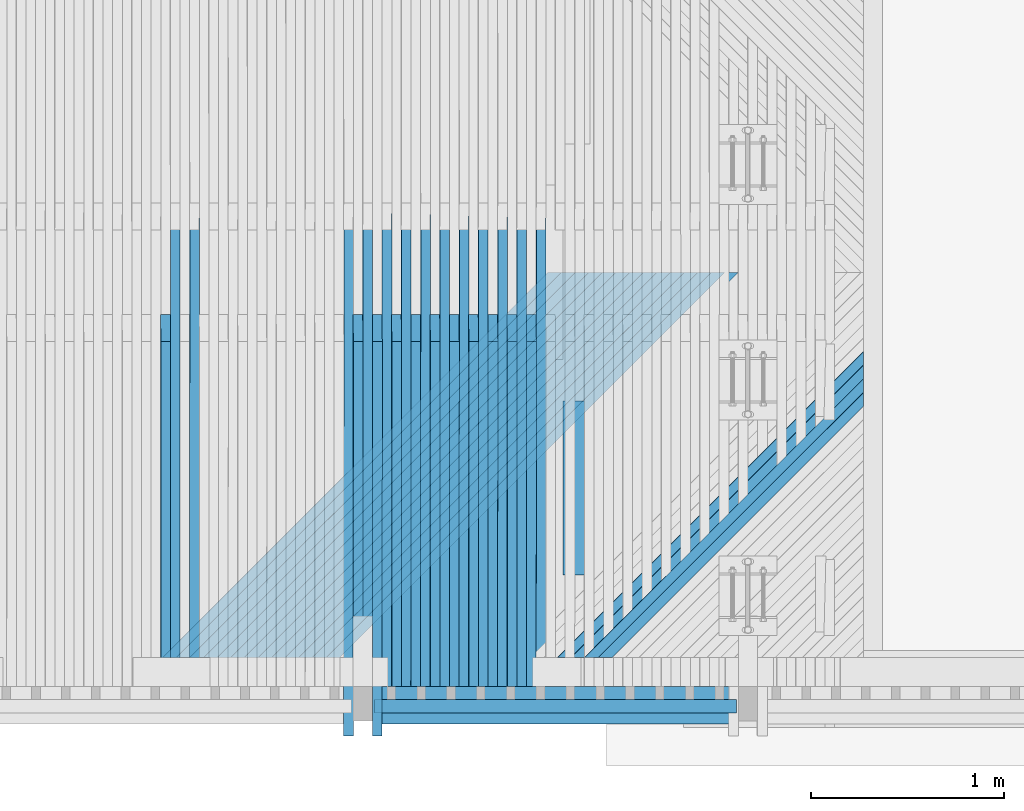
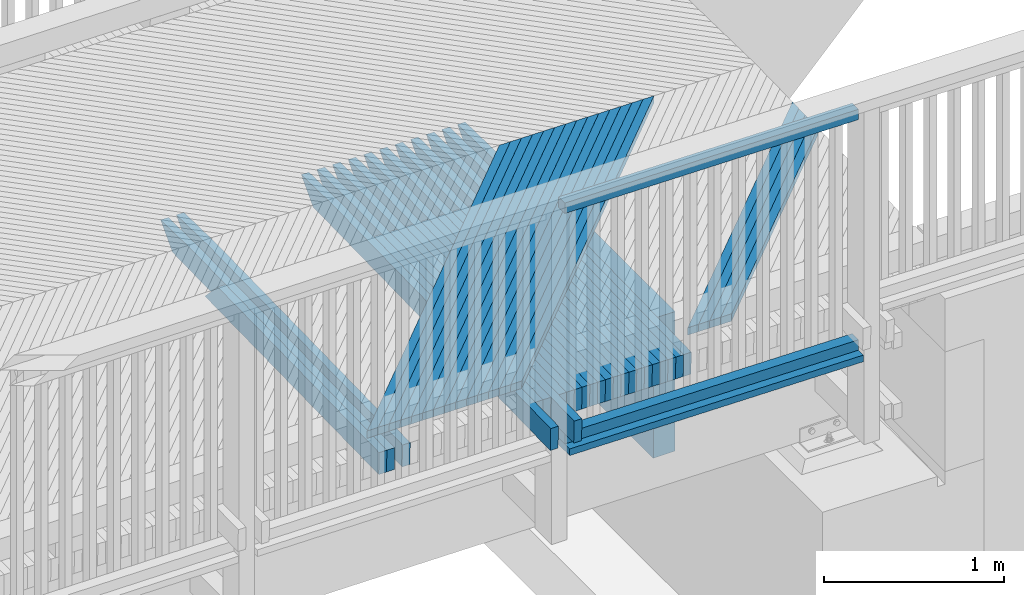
# One storey, part 39 of 52: 46 beams.
"""IFC2X3 building model written with IfcOpenShell, lengths in millimetres."""

from ifc_helpers import new_model, si_unit, frame, origin_with_axes, place, context, subcontext, project, spatial, faceted_brep, material, type_object, element, save


model = new_model("IFC2X3")

# Units and contexts
model_context = context("Model", 3, precision=1e-05, world=origin_with_axes())
body_context = subcontext(model_context, "Body", "Model", "MODEL_VIEW")
ifc_project = project(units=[si_unit("LENGTHUNIT", "METRE", prefix="MILLI"), si_unit("AREAUNIT", "SQUARE_METRE"), si_unit("VOLUMEUNIT", "CUBIC_METRE"), si_unit("MASSUNIT", "GRAM", prefix="KILO"), si_unit("TIMEUNIT", "SECOND"), si_unit("PLANEANGLEUNIT", "RADIAN"), si_unit("SOLIDANGLEUNIT", "STERADIAN"), si_unit("THERMODYNAMICTEMPERATUREUNIT", "DEGREE_CELSIUS"), si_unit("LUMINOUSINTENSITYUNIT", "LUMEN")], contexts=[model_context])

# Site, building, storey
site_placement = place(None, origin_with_axes())
site = spatial("IfcSite", under=ifc_project, at=site_placement, Name="Undefined", CompositionType="ELEMENT")
building_placement = place(site_placement, origin_with_axes())
building = spatial("IfcBuilding", under=site, at=building_placement, Name="Undefined", CompositionType="ELEMENT")
storey_placement = place(building_placement, origin_with_axes())
storey = spatial("IfcBuildingStorey", under=building, at=storey_placement, Name="Undefined", CompositionType="ELEMENT", Elevation=0.0)

# Beams
ifc_material = material(Name="TIMBER/Timber_Undefined")
beam_type_1 = type_object("IfcBeamType", Name="70*70", PredefinedType="NOTDEFINED")
for number, where, z_axis, x_axis, name in (
    (1, (14059.5719402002, 110.009988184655, 2938.34227096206), (0.0, -1.0, 0.0), (0.999925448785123, 0.0, -0.0122105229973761), "BEAM"),
    (2, (14059.5719402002, 110.009988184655, 4498.34227096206), (0.0, -1.0, 0.0), (0.999925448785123, 0.0, -0.0122105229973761), "BEAM"),
):
    element("IfcBeam", number, at=place(storey_placement, frame(where, z_axis=z_axis, x_axis=x_axis)), inside=storey, type_object=beam_type_1, material=ifc_material, Name=name, ObjectType="70*70", context=body_context, shape_type="Brep", body=[
        faceted_brep([(-3.63797880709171e-12, 35.0000000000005, -35.0), (-3.63797880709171e-12, 35.0000000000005, 35.0), (1880.14165787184, 35.0, 35.0), (1880.14165787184, 35.0, -35.0), (-3.63797880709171e-12, -34.9999999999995, 35.0), (1880.14165787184, -34.9999999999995, 35.0), (-3.63797880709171e-12, -34.9999999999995, -35.0), (1880.14165787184, -34.9999999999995, -35.0)], [[[0, 1, 2, 3]], [[1, 4, 5, 2]], [[4, 6, 7, 5]], [[6, 0, 3, 7]], [[5, 7, 3, 2]], [[6, 4, 1, 0]]]),
    ])
beam_type_2 = type_object("IfcBeamType", Name="945*140", PredefinedType="NOTDEFINED")
beam_1_placement = place(storey_placement, frame((15109.0, 1697.5, 2500.4679002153), z_axis=(0.0, 0.0, 1.0), x_axis=(0.0, -1.0, 0.0)))
element("IfcBeam", 3, at=beam_1_placement, inside=storey, type_object=beam_type_2, material=ifc_material, Name="PALKKI", ObjectType="945*140", context=body_context, shape_type="Brep", body=[
    faceted_brep([(0.0, 70.0, -472.5), (0.0, 70.0, 472.5), (905.0, 70.0, 472.5), (905.0, 70.0, -472.5), (0.0, -70.0, 472.5), (905.0, -70.0, 472.5), (0.0, -70.0, -472.5), (905.0, -70.0, -472.5)], [[[0, 1, 2, 3]], [[1, 4, 5, 2]], [[4, 6, 7, 5]], [[6, 0, 3, 7]], [[5, 7, 3, 2]], [[6, 4, 1, 0]]]),
])
beam_type_3 = type_object("IfcBeamType", Name="50*50", PredefinedType="NOTDEFINED")
beam_2_placement = place(storey_placement, frame((17258.8677408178, 2364.50010032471, 3164.92933385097), z_axis=(0.706832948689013, -0.706981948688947, -0.0237425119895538), x_axis=(-0.707250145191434, -0.706948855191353, -0.00453302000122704)))
element("IfcBeam", 4, at=beam_2_placement, inside=storey, type_object=beam_type_3, material=ifc_material, Name="BEAM", ObjectType="50*50", context=body_context, shape_type="Brep", body=[
    faceted_brep([(2802.92643296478, -25.0, 25.0000000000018), (2852.92877373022, -25.0, -24.9999999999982), (2854.34301907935, 25.0, -24.9999999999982), (2804.3406783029, 25.0000000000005, 25.0000000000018), (906.125537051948, 25.0, -24.9999999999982), (956.096042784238, 25.0, 25.0000000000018), (957.056097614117, -24.9999999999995, 25.0000000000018), (907.085591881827, -24.9999999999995, -24.9999999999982)], [[[0, 1, 2, 3]], [[3, 2, 4, 5]], [[0, 3, 5, 6]], [[1, 0, 6, 7]], [[2, 1, 7, 4]], [[6, 5, 4, 7]]]),
])
beam_3_placement = place(storey_placement, frame((17188.1518059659, 2364.50010032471, 3166.01273338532), z_axis=(0.706835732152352, -0.706981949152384, -0.0236594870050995), x_axis=(-0.707249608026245, -0.706948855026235, -0.00461609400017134)))
element("IfcBeam", 5, at=beam_3_placement, inside=storey, type_object=beam_type_3, material=ifc_material, Name="BEAM", ObjectType="50*50", context=body_context, shape_type="Brep", body=[
    faceted_brep([(2802.92643296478, -25.0, 25.0000000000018), (2852.92877373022, -25.0, -24.9999999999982), (2854.34301907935, 25.0, -24.9999999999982), (2804.3406783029, 25.0000000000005, 25.0000000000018), (806.143039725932, 24.9999999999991, -24.9999999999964), (856.113780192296, 24.9999999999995, 25.0), (857.065534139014, -25.0000000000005, 25.0000000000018), (807.094793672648, -25.0000000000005, -24.9999999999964)], [[[0, 1, 2, 3]], [[3, 2, 4, 5]], [[0, 3, 5, 6]], [[1, 0, 6, 7]], [[2, 1, 7, 4]], [[6, 5, 4, 7]]]),
])
beam_4_placement = place(storey_placement, frame((17117.4357443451, 2364.50010032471, 3167.08782657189), z_axis=(0.706838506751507, -0.706981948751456, -0.0235764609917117), x_axis=(-0.707249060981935, -0.706948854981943, -0.00469916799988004)))
element("IfcBeam", 6, at=beam_4_placement, inside=storey, type_object=beam_type_3, material=ifc_material, Name="BEAM", ObjectType="50*50", context=body_context, shape_type="Brep", body=[
    faceted_brep([(2802.92643296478, -25.0, 25.0000000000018), (2852.92877373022, -25.0, -24.9999999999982), (2854.34301907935, 25.0, -24.9999999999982), (2804.3406783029, 25.0000000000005, 25.0000000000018), (706.160221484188, 25.0, -25.0000000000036), (756.131196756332, 24.9999999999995, 24.9999999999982), (757.074649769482, -25.0, 24.9999999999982), (707.103674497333, -25.0, -25.0000000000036)], [[[0, 1, 2, 3]], [[3, 2, 4, 5]], [[0, 3, 5, 6]], [[1, 0, 6, 7]], [[2, 1, 7, 4]], [[6, 5, 4, 7]]]),
])
beam_5_placement = place(storey_placement, frame((17046.7195569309, 2364.50010032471, 3168.15461339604), z_axis=(0.706841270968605, -0.706981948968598, -0.0234934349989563), x_axis=(-0.707248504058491, -0.706948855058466, -0.00478224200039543)))
element("IfcBeam", 7, at=beam_5_placement, inside=storey, type_object=beam_type_3, material=ifc_material, Name="BEAM", ObjectType="50*50", context=body_context, shape_type="Brep", body=[
    faceted_brep([(2802.92643296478, -25.0, 25.0000000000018), (2852.92877373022, -25.0, -24.9999999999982), (2854.34301907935, 25.0, -24.9999999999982), (2804.3406783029, 25.0000000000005, 25.0000000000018), (606.177079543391, 25.0, -25.0), (656.148289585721, 25.0, 24.9999999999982), (657.083441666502, -25.0000000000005, 25.0), (607.112231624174, -25.0000000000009, -25.0)], [[[0, 1, 2, 3]], [[3, 2, 4, 5]], [[0, 3, 5, 6]], [[1, 0, 6, 7]], [[2, 1, 7, 4]], [[6, 5, 4, 7]]]),
])
for number, where, z_axis, x_axis, name in (
    (8, (15915.2442465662, 2364.50010032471, 3184.09352561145), (0.706884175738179, -0.706981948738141, -0.0221649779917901), (-0.707238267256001, -0.706948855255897, -0.00611141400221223), "BEAM"),
    (9, (15844.5260699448, 2364.50010032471, 3185.01910211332), (0.706886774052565, -0.706981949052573, -0.0220819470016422), (-0.707237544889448, -0.706948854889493, -0.00619448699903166), "BEAM"),
    (10, (15773.8077850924, 2364.50010032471, 3185.93637200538), (0.706889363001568, -0.70698194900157, -0.021998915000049), (-0.707236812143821, -0.706948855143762, -0.00627756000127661), "BEAM"),
    (11, (15703.0893929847, 2364.50010032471, 3186.8453352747), (0.706891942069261, -0.706981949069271, -0.0219158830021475), (-0.707236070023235, -0.706948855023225, -0.00636063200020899), "BEAM"),
    (12, (15632.3708945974, 2364.50010032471, 3187.74599190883), (0.706894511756, -0.706981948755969, -0.021832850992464), (-0.707235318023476, -0.706948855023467, -0.00644370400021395), "BEAM"),
    (13, (15561.6522909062, 2364.50010032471, 3188.6383418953), (0.706897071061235, -0.706981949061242, -0.0217498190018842), (-0.707234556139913, -0.706948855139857, -0.00652677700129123), "BEAM"),
    (14, (15490.9335828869, 2364.50010032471, 3189.52238522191), (0.706899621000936, -0.706981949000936, -0.0216667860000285), (-0.707233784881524, -0.706948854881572, -0.00660984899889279), "BEAM"),
    (15, (15420.2147715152, 2364.50010032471, 3190.39812187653), (0.706902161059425, -0.706981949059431, -0.0215837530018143), (-0.707233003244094, -0.706948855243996, -0.00669292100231), "BEAM"),
    (16, (15349.4958577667, 2364.50010032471, 3191.26555184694), (0.706904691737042, -0.706981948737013, -0.021500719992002), (-0.707232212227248, -0.706948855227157, -0.00677599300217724), "BEAM"),
    (17, (15278.7768426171, 2364.50010032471, 3192.12467512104), (0.706907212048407, -0.706981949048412, -0.0214176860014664), (-0.707231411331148, -0.706948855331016, -0.00685906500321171), "BEAM"),
    (18, (15208.0577270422, 2364.50010032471, 3192.97549168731), (0.706909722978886, -0.706981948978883, -0.0213346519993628), (-0.707230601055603, -0.706948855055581, -0.00694213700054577), "BEAM"),
    (19, (15137.3385120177, 2364.50010032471, 3193.81800153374), (0.706912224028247, -0.70698194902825, -0.021251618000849), (-0.70722978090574, -0.706948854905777, -0.00702520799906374), "BEAM"),
    (20, (15066.6191985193, 2364.50010032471, 3194.65220464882), (0.706914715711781, -0.706981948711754, -0.0211685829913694), (-0.707228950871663, -0.706948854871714, -0.00710827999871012), "BEAM"),
    (21, (14995.8997875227, 2364.50010032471, 3195.47810102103), (0.706917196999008, -0.706981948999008, -0.0210855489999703), (-0.707228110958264, -0.706948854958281, -0.00719135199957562), "BEAM"),
):
    element("IfcBeam", number, at=place(storey_placement, frame(where, z_axis=z_axis, x_axis=x_axis)), inside=storey, type_object=beam_type_3, material=ifc_material, Name=name, ObjectType="50*50", context=body_context, shape_type="Brep", body=[
        faceted_brep([(24.894245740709, 25.0, -25.0), (-25.0086637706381, 24.9999999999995, 24.9999999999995), (2804.3406783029, 25.0000000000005, 25.0000000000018), (2854.34301907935, 25.0, -24.9999999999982), (-26.4222658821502, -25.0, 24.9999999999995), (2802.92643296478, -25.0, 25.0000000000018), (23.4806436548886, -25.0, -25.0), (2852.92877373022, -25.0, -24.9999999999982)], [[[0, 1, 2, 3]], [[1, 4, 5, 2]], [[4, 6, 7, 5]], [[6, 0, 3, 7]], [[5, 7, 3, 2]], [[6, 4, 1, 0]]]),
    ])
beam_type_4 = type_object("IfcBeamType", Name="195*45", PredefinedType="NOTDEFINED")
beam_6_placement = place(storey_placement, frame((14058.0137394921, 117.509988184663, 2880.86626034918), z_axis=(0.0, -1.0, 0.0), x_axis=(0.999925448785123, 0.0, -0.0122105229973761)))
element("IfcBeam", 22, at=beam_6_placement, inside=storey, type_object=beam_type_4, material=ifc_material, Name="BEAM", ObjectType="195*45", context=body_context, shape_type="Brep", body=[
    faceted_brep([(3.63797880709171e-12, 22.4999999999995, -97.5), (3.63797880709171e-12, 22.4999999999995, 97.5), (1880.22135781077, 22.4999999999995, 97.5), (1880.22135781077, 22.4999999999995, -97.5), (1.81898940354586e-12, -22.5000000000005, 97.5), (1880.22135781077, -22.5000000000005, 97.5), (1.81898940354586e-12, -22.5000000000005, -97.5), (1880.22135781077, -22.5000000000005, -97.5)], [[[0, 1, 2, 3]], [[1, 4, 5, 2]], [[4, 6, 7, 5]], [[6, 0, 3, 7]], [[5, 7, 3, 2]], [[6, 4, 1, 0]]]),
])
beam_type_5 = type_object("IfcBeamType", Name="150*50", PredefinedType="NOTDEFINED")
beam_7_placement = place(storey_placement, frame((14874.6038632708, 216.50460761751, 3053.88204159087), z_axis=(0.0113405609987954, -0.0199960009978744, 0.999735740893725), x_axis=(0.000226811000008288, 0.999800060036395, 0.0199947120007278)))
element("IfcBeam", 23, at=beam_7_placement, inside=storey, type_object=beam_type_5, material=ifc_material, Name="BEAM", ObjectType="150*50", context=body_context, shape_type="Brep", body=[
    faceted_brep([(-1.67788130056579e-07, -24.9999999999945, -74.9999999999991), (1.67786311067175e-07, -24.9999999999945, 75.0000000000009), (1.67786311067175e-07, 25.0000000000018, 75.0), (-1.67787220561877e-07, 25.0000000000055, -75.0), (1789.96936433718, -25.0000000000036, 74.9999999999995), (1789.96936408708, 24.9999999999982, 75.0000000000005), (1928.42646328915, 24.9999999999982, -74.9999999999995), (1928.42646353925, -25.0, -75.0)], [[[0, 1, 2, 3]], [[2, 1, 4, 5]], [[3, 2, 5, 6]], [[0, 3, 6, 7]], [[1, 0, 7, 4]], [[6, 5, 4, 7]]]),
])
beam_8_placement = place(storey_placement, frame((14924.6205833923, 216.504607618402, 3053.30636416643), z_axis=(0.0115066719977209, -0.0199960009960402, 0.999733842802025), x_axis=(0.00023013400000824, 0.999800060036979, 0.0199946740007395)))
element("IfcBeam", 24, at=beam_8_placement, inside=storey, type_object=beam_type_5, material=ifc_material, Name="BEAM", ObjectType="150*50", context=body_context, shape_type="Brep", body=[
    faceted_brep([(-1.67788130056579e-07, -24.9999999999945, -74.9999999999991), (1.67786311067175e-07, -24.9999999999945, 75.0000000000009), (1.67786311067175e-07, 25.0000000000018, 75.0), (-1.67787220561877e-07, 25.0000000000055, -75.0), (2375.00494422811, 25.0000000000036, -74.9999999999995), (2375.0049444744, -24.9999999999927, -74.9999999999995), (2510.5924871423, -24.9999999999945, 60.5875430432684), (2150.42514405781, -24.9999999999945, 75.0000000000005), (2150.42515052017, 25.0000000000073, 75.0), (2510.59248715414, 25.0000000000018, 60.5875433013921)], [[[0, 1, 2, 3]], [[0, 3, 4, 5]], [[1, 0, 5, 6, 7]], [[2, 1, 7, 8]], [[4, 3, 2, 8, 9]], [[5, 4, 9, 6]], [[6, 9, 8, 7]]]),
])
beam_9_placement = place(storey_placement, frame((14774.590259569, 216.50460761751, 3055.01598487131), z_axis=(0.0111744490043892, -0.0199960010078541, 0.99973761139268), x_axis=(0.000223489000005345, 0.999800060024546, 0.0199947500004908)))
element("IfcBeam", 25, at=beam_9_placement, inside=storey, type_object=beam_type_5, material=ifc_material, Name="BEAM", ObjectType="150*50", context=body_context, shape_type="Brep", body=[
    faceted_brep([(-1.67788130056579e-07, -24.9999999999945, -74.9999999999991), (1.67786311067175e-07, -24.9999999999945, 75.0000000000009), (1.67786311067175e-07, 25.0000000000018, 75.0), (-1.67787220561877e-07, 25.0000000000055, -75.0), (1789.96936433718, -25.0000000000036, 74.9999999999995), (1789.96936408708, 24.9999999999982, 75.0000000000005), (1928.42646328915, 24.9999999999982, -74.9999999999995), (1928.42646353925, -25.0, -75.0)], [[[0, 1, 2, 3]], [[2, 1, 4, 5]], [[3, 2, 5, 6]], [[0, 3, 6, 7]], [[1, 0, 7, 4]], [[6, 5, 4, 7]]]),
])
beam_10_placement = place(storey_placement, frame((14824.6070746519, 216.504607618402, 3054.44861800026), z_axis=(0.0113405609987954, -0.0199960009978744, 0.999735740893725), x_axis=(0.000226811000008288, 0.999800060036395, 0.0199947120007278)))
element("IfcBeam", 26, at=beam_10_placement, inside=storey, type_object=beam_type_5, material=ifc_material, Name="BEAM", ObjectType="150*50", context=body_context, shape_type="Brep", body=[
    faceted_brep([(-1.67788130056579e-07, -24.9999999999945, -74.9999999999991), (1.67786311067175e-07, -24.9999999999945, 75.0000000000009), (1.67786311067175e-07, 25.0000000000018, 75.0), (-1.67787220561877e-07, 25.0000000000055, -75.0), (2375.00494422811, 25.0000000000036, -74.9999999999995), (2375.0049444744, -24.9999999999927, -74.9999999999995), (2510.5924871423, -24.9999999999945, 60.5875430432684), (2150.42514405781, -24.9999999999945, 75.0000000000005), (2150.42515052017, 25.0000000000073, 75.0), (2510.59248715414, 25.0000000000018, 60.5875433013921)], [[[0, 1, 2, 3]], [[0, 3, 4, 5]], [[1, 0, 5, 6, 7]], [[2, 1, 7, 8]], [[4, 3, 2, 8, 9]], [[5, 4, 9, 6]], [[6, 9, 8, 7]]]),
])
beam_11_placement = place(storey_placement, frame((14674.576468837, 216.50460761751, 3056.13331034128), z_axis=(0.0110083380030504, -0.0199960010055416, 0.999739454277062), x_axis=(0.000220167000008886, 0.999800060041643, 0.0199947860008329)))
element("IfcBeam", 27, at=beam_11_placement, inside=storey, type_object=beam_type_5, material=ifc_material, Name="BEAM", ObjectType="150*50", context=body_context, shape_type="Brep", body=[
    faceted_brep([(-1.67788130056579e-07, -24.9999999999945, -74.9999999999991), (1.67786311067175e-07, -24.9999999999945, 75.0000000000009), (1.67786311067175e-07, 25.0000000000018, 75.0), (-1.67787220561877e-07, 25.0000000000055, -75.0), (1789.96936433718, -25.0000000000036, 74.9999999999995), (1789.96936408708, 24.9999999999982, 75.0000000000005), (1928.42646328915, 24.9999999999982, -74.9999999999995), (1928.42646353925, -25.0, -75.0)], [[[0, 1, 2, 3]], [[2, 1, 4, 5]], [[3, 2, 5, 6]], [[0, 3, 6, 7]], [[1, 0, 7, 4]], [[6, 5, 4, 7]]]),
])
beam_12_placement = place(storey_placement, frame((14724.5933775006, 216.504607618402, 3055.57425403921), z_axis=(0.0111744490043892, -0.0199960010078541, 0.99973761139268), x_axis=(0.000223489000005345, 0.999800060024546, 0.0199947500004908)))
element("IfcBeam", 28, at=beam_12_placement, inside=storey, type_object=beam_type_5, material=ifc_material, Name="BEAM", ObjectType="150*50", context=body_context, shape_type="Brep", body=[
    faceted_brep([(-1.67788130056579e-07, -24.9999999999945, -74.9999999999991), (1.67786311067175e-07, -24.9999999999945, 75.0000000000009), (1.67786311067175e-07, 25.0000000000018, 75.0), (-1.67787220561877e-07, 25.0000000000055, -75.0), (2375.00494422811, 25.0000000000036, -74.9999999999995), (2375.0049444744, -24.9999999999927, -74.9999999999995), (2510.5924871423, -24.9999999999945, 60.5875430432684), (2150.42514405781, -24.9999999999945, 75.0000000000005), (2150.42515052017, 25.0000000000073, 75.0), (2510.59248715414, 25.0000000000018, 60.5875433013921)], [[[0, 1, 2, 3]], [[0, 3, 4, 5]], [[1, 0, 5, 6, 7]], [[2, 1, 7, 8]], [[4, 3, 2, 8, 9]], [[5, 4, 9, 6]], [[6, 9, 8, 7]]]),
])
beam_13_placement = place(storey_placement, frame((14574.562493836, 216.50460761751, 3057.23401797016), z_axis=(0.0108422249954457, -0.0199960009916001, 0.999741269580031), x_axis=(0.000216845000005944, 0.999800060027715, 0.0199948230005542)))
element("IfcBeam", 29, at=beam_13_placement, inside=storey, type_object=beam_type_5, material=ifc_material, Name="BEAM", ObjectType="150*50", context=body_context, shape_type="Brep", body=[
    faceted_brep([(-1.67788130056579e-07, -24.9999999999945, -74.9999999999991), (1.67786311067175e-07, -24.9999999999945, 75.0000000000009), (1.67786311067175e-07, 25.0000000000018, 75.0), (-1.67787220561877e-07, 25.0000000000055, -75.0), (1789.96936433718, -25.0000000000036, 74.9999999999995), (1789.96936408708, 24.9999999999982, 75.0000000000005), (1928.42646328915, 24.9999999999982, -74.9999999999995), (1928.42646353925, -25.0, -75.0)], [[[0, 1, 2, 3]], [[2, 1, 4, 5]], [[3, 2, 5, 6]], [[0, 3, 6, 7]], [[1, 0, 7, 4]], [[6, 5, 4, 7]]]),
])
beam_14_placement = place(storey_placement, frame((14624.5794946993, 216.504607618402, 3056.68327225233), z_axis=(0.0110083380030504, -0.0199960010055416, 0.999739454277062), x_axis=(0.000220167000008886, 0.999800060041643, 0.0199947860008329)))
element("IfcBeam", 30, at=beam_14_placement, inside=storey, type_object=beam_type_5, material=ifc_material, Name="BEAM", ObjectType="150*50", context=body_context, shape_type="Brep", body=[
    faceted_brep([(-1.67788130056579e-07, -24.9999999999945, -74.9999999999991), (1.67786311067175e-07, -24.9999999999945, 75.0000000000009), (1.67786311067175e-07, 25.0000000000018, 75.0), (-1.67787220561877e-07, 25.0000000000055, -75.0), (2375.00494422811, 25.0000000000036, -74.9999999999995), (2375.0049444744, -24.9999999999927, -74.9999999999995), (2510.5924871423, -24.9999999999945, 60.5875430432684), (2150.42514405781, -24.9999999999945, 75.0000000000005), (2150.42515052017, 25.0000000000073, 75.0), (2510.59248715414, 25.0000000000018, 60.5875433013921)], [[[0, 1, 2, 3]], [[0, 3, 4, 5]], [[1, 0, 5, 6, 7]], [[2, 1, 7, 8]], [[4, 3, 2, 8, 9]], [[5, 4, 9, 6]], [[6, 9, 8, 7]]]),
])
beam_15_placement = place(storey_placement, frame((14474.5483373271, 216.50460761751, 3058.31810772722), z_axis=(0.0106761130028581, -0.0199960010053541, 0.999743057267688), x_axis=(0.000213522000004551, 0.999800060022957, 0.0199948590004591)))
element("IfcBeam", 31, at=beam_15_placement, inside=storey, type_object=beam_type_5, material=ifc_material, Name="BEAM", ObjectType="150*50", context=body_context, shape_type="Brep", body=[
    faceted_brep([(-1.67788130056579e-07, -24.9999999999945, -74.9999999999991), (1.67786311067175e-07, -24.9999999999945, 75.0000000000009), (1.67786311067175e-07, 25.0000000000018, 75.0), (-1.67787220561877e-07, 25.0000000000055, -75.0), (1789.96936433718, -25.0000000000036, 74.9999999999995), (1789.96936408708, 24.9999999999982, 75.0000000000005), (1928.42646328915, 24.9999999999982, -74.9999999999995), (1928.42646353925, -25.0, -75.0)], [[[0, 1, 2, 3]], [[2, 1, 4, 5]], [[3, 2, 5, 6]], [[0, 3, 6, 7]], [[1, 0, 7, 4]], [[6, 5, 4, 7]]]),
])
beam_16_placement = place(storey_placement, frame((14524.5654290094, 216.504607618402, 3057.77567260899), z_axis=(0.0108422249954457, -0.0199960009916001, 0.999741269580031), x_axis=(0.000216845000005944, 0.999800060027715, 0.0199948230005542)))
element("IfcBeam", 32, at=beam_16_placement, inside=storey, type_object=beam_type_5, material=ifc_material, Name="BEAM", ObjectType="150*50", context=body_context, shape_type="Brep", body=[
    faceted_brep([(-1.67788130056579e-07, -24.9999999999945, -74.9999999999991), (1.67786311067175e-07, -24.9999999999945, 75.0000000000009), (1.67786311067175e-07, 25.0000000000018, 75.0), (-1.67787220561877e-07, 25.0000000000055, -75.0), (2375.00494422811, 25.0000000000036, -74.9999999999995), (2375.0049444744, -24.9999999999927, -74.9999999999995), (2510.5924871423, -24.9999999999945, 60.5875430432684), (2150.42514405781, -24.9999999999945, 75.0000000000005), (2150.42515052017, 25.0000000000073, 75.0), (2510.59248715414, 25.0000000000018, 60.5875433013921)], [[[0, 1, 2, 3]], [[0, 3, 4, 5]], [[1, 0, 5, 6, 7]], [[2, 1, 7, 8]], [[4, 3, 2, 8, 9]], [[5, 4, 9, 6]], [[6, 9, 8, 7]]]),
])
beam_17_placement = place(storey_placement, frame((14374.5340020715, 216.50460761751, 3059.38557958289), z_axis=(0.0105100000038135, -0.019996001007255, 0.99974481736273), x_axis=(0.000210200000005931, 0.999800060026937, 0.0199948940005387)))
element("IfcBeam", 33, at=beam_17_placement, inside=storey, type_object=beam_type_5, material=ifc_material, Name="BEAM", ObjectType="150*50", context=body_context, shape_type="Brep", body=[
    faceted_brep([(-1.67788130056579e-07, -24.9999999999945, -74.9999999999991), (1.67786311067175e-07, -24.9999999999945, 75.0000000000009), (1.67786311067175e-07, 25.0000000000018, 75.0), (-1.67787220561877e-07, 25.0000000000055, -75.0), (1789.96936433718, -25.0000000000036, 74.9999999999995), (1789.96936408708, 24.9999999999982, 75.0000000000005), (1928.42646328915, 24.9999999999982, -74.9999999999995), (1928.42646353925, -25.0, -75.0)], [[[0, 1, 2, 3]], [[2, 1, 4, 5]], [[3, 2, 5, 6]], [[0, 3, 6, 7]], [[1, 0, 7, 4]], [[6, 5, 4, 7]]]),
])
beam_18_placement = place(storey_placement, frame((14424.5511831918, 216.504607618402, 3058.85145507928), z_axis=(0.0106761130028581, -0.0199960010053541, 0.999743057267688), x_axis=(0.000213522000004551, 0.999800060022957, 0.0199948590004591)))
element("IfcBeam", 34, at=beam_18_placement, inside=storey, type_object=beam_type_5, material=ifc_material, Name="BEAM", ObjectType="150*50", context=body_context, shape_type="Brep", body=[
    faceted_brep([(-1.67788130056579e-07, -24.9999999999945, -74.9999999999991), (1.67786311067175e-07, -24.9999999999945, 75.0000000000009), (1.67786311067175e-07, 25.0000000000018, 75.0), (-1.67787220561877e-07, 25.0000000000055, -75.0), (2375.00494422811, 25.0000000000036, -74.9999999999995), (2375.0049444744, -24.9999999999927, -74.9999999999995), (2510.5924871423, -24.9999999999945, 60.5875430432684), (2150.42514405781, -24.9999999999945, 75.0000000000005), (2150.42515052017, 25.0000000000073, 75.0), (2510.59248715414, 25.0000000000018, 60.5875433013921)], [[[0, 1, 2, 3]], [[0, 3, 4, 5]], [[1, 0, 5, 6, 7]], [[2, 1, 7, 8]], [[4, 3, 2, 8, 9]], [[5, 4, 9, 6]], [[6, 9, 8, 7]]]),
])
beam_19_placement = place(storey_placement, frame((14274.5194908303, 216.50460761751, 3060.43643350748), z_axis=(0.010343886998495, -0.019996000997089, 0.999746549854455), x_axis=(0.000206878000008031, 0.999800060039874, 0.0199949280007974)))
element("IfcBeam", 35, at=beam_19_placement, inside=storey, type_object=beam_type_5, material=ifc_material, Name="BEAM", ObjectType="150*50", context=body_context, shape_type="Brep", body=[
    faceted_brep([(-1.67788130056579e-07, -24.9999999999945, -74.9999999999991), (1.67786311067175e-07, -24.9999999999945, 75.0000000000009), (1.67786311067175e-07, 25.0000000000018, 75.0), (-1.67787220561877e-07, 25.0000000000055, -75.0), (1789.96936433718, -25.0000000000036, 74.9999999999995), (1789.96936408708, 24.9999999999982, 75.0000000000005), (1928.42646328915, 24.9999999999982, -74.9999999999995), (1928.42646353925, -25.0, -75.0)], [[[0, 1, 2, 3]], [[2, 1, 4, 5]], [[3, 2, 5, 6]], [[0, 3, 6, 7]], [[1, 0, 7, 4]], [[6, 5, 4, 7]]]),
])
beam_20_placement = place(storey_placement, frame((14324.5367600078, 216.504607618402, 3059.91061963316), z_axis=(0.0105100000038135, -0.019996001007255, 0.99974481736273), x_axis=(0.000210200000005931, 0.999800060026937, 0.0199948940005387)))
element("IfcBeam", 36, at=beam_20_placement, inside=storey, type_object=beam_type_5, material=ifc_material, Name="BEAM", ObjectType="150*50", context=body_context, shape_type="Brep", body=[
    faceted_brep([(-1.67788130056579e-07, -24.9999999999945, -74.9999999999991), (1.67786311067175e-07, -24.9999999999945, 75.0000000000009), (1.67786311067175e-07, 25.0000000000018, 75.0), (-1.67787220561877e-07, 25.0000000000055, -75.0), (2375.00494422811, 25.0000000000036, -74.9999999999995), (2375.0049444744, -24.9999999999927, -74.9999999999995), (2510.5924871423, -24.9999999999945, 60.5875430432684), (2150.42514405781, -24.9999999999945, 75.0000000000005), (2150.42515052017, 25.0000000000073, 75.0), (2510.59248715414, 25.0000000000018, 60.5875433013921)], [[[0, 1, 2, 3]], [[0, 3, 4, 5]], [[1, 0, 5, 6, 7]], [[2, 1, 7, 8]], [[4, 3, 2, 8, 9]], [[5, 4, 9, 6]], [[6, 9, 8, 7]]]),
])
beam_21_placement = place(storey_placement, frame((14174.5048063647, 216.50460761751, 3061.47066947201), z_axis=(0.0101777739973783, -0.0199960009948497, 0.999748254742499), x_axis=(0.000203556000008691, 0.999800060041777, 0.0199949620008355)))
element("IfcBeam", 37, at=beam_21_placement, inside=storey, type_object=beam_type_5, material=ifc_material, Name="BEAM", ObjectType="150*50", context=body_context, shape_type="Brep", body=[
    faceted_brep([(-1.67788130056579e-07, -24.9999999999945, -74.9999999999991), (1.67786311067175e-07, -24.9999999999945, 75.0000000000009), (1.67786311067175e-07, 25.0000000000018, 75.0), (-1.67787220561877e-07, 25.0000000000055, -75.0), (1789.96936433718, -25.0000000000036, 74.9999999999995), (1789.96936408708, 24.9999999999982, 75.0000000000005), (1928.42646328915, 24.9999999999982, -74.9999999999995), (1928.42646353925, -25.0, -75.0)], [[[0, 1, 2, 3]], [[2, 1, 4, 5]], [[3, 2, 5, 6]], [[0, 3, 6, 7]], [[1, 0, 7, 4]], [[6, 5, 4, 7]]]),
])
for number, where, z_axis, x_axis, name in (
    (38, (14224.5221622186, 216.504607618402, 3060.95316624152), (0.010343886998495, -0.019996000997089, 0.999746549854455), (0.000206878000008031, 0.999800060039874, 0.0199949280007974), "BEAM"),
    (39, (14124.5073925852, 216.504607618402, 3061.97909487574), (0.0101777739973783, -0.0199960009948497, 0.999748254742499), (0.000203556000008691, 0.999800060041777, 0.0199949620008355), "BEAM"),
):
    element("IfcBeam", number, at=place(storey_placement, frame(where, z_axis=z_axis, x_axis=x_axis)), inside=storey, type_object=beam_type_5, material=ifc_material, Name=name, ObjectType="150*50", context=body_context, shape_type="Brep", body=[
        faceted_brep([(-1.67788130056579e-07, -24.9999999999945, -74.9999999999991), (1.67786311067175e-07, -24.9999999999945, 75.0000000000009), (1.67786311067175e-07, 25.0000000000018, 75.0), (-1.67787220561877e-07, 25.0000000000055, -75.0), (2375.00494422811, 25.0000000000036, -74.9999999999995), (2375.0049444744, -24.9999999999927, -74.9999999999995), (2510.5924871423, -24.9999999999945, 60.5875430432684), (2150.42514405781, -24.9999999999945, 75.0000000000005), (2150.42515052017, 25.0000000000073, 75.0), (2510.59248715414, 25.0000000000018, 60.5875433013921)], [[[0, 1, 2, 3]], [[0, 3, 4, 5]], [[1, 0, 5, 6, 7]], [[2, 1, 7, 8]], [[4, 3, 2, 8, 9]], [[5, 4, 9, 6]], [[6, 9, 8, 7]]]),
    ])
beam_22_placement = place(storey_placement, frame((13974.4749288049, 216.50460761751, 3063.48928740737), z_axis=(0.00984554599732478, -0.0199960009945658, 0.999751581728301), x_axis=(0.000196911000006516, 0.999800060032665, 0.0199950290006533)))
element("IfcBeam", 40, at=beam_22_placement, inside=storey, type_object=beam_type_5, material=ifc_material, Name="BEAM", ObjectType="150*50", context=body_context, shape_type="Brep", body=[
    faceted_brep([(-1.67788130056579e-07, -24.9999999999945, -74.9999999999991), (1.67786311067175e-07, -24.9999999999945, 75.0000000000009), (1.67786311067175e-07, 25.0000000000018, 75.0), (-1.67787220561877e-07, 25.0000000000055, -75.0), (1789.96936433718, -25.0000000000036, 74.9999999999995), (1789.96936408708, 24.9999999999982, 75.0000000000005), (1928.42646328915, 24.9999999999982, -74.9999999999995), (1928.42646353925, -25.0, -75.0)], [[[0, 1, 2, 3]], [[2, 1, 4, 5]], [[3, 2, 5, 6]], [[0, 3, 6, 7]], [[1, 0, 7, 4]], [[6, 5, 4, 7]]]),
])
for number, where, z_axis, x_axis, name in (
    (41, (14024.4924538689, 216.504607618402, 3062.98840550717), (0.0100116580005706, -0.0199960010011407, 0.999749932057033), (0.000200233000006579, 0.999800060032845, 0.0199949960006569), "BEAM"),
    (42, (13124.9508516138, 216.504607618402, 3071.32528386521), (0.00851662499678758, -0.0199960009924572, 0.999763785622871), (0.000170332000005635, 0.999800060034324, 0.0199952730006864), "BEAM"),
):
    element("IfcBeam", number, at=place(storey_placement, frame(where, z_axis=z_axis, x_axis=x_axis)), inside=storey, type_object=beam_type_5, material=ifc_material, Name=name, ObjectType="150*50", context=body_context, shape_type="Brep", body=[
        faceted_brep([(-1.67788130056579e-07, -24.9999999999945, -74.9999999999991), (1.67786311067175e-07, -24.9999999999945, 75.0000000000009), (1.67786311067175e-07, 25.0000000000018, 75.0), (-1.67787220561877e-07, 25.0000000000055, -75.0), (2375.00494422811, 25.0000000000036, -74.9999999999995), (2375.0049444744, -24.9999999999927, -74.9999999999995), (2510.5924871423, -24.9999999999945, 60.5875430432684), (2150.42514405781, -24.9999999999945, 75.0000000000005), (2150.42515052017, 25.0000000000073, 75.0), (2510.59248715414, 25.0000000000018, 60.5875433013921)], [[[0, 1, 2, 3]], [[0, 3, 4, 5]], [[1, 0, 5, 6, 7]], [[2, 1, 7, 8]], [[4, 3, 2, 8, 9]], [[5, 4, 9, 6]], [[6, 9, 8, 7]]]),
    ])
beam_23_placement = place(storey_placement, frame((12974.9160855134, 216.50460761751, 3072.5862871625), z_axis=(0.00818439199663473, -0.01999600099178, 0.999766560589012), x_axis=(0.000163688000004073, 0.999800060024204, 0.019995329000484)))
element("IfcBeam", 43, at=beam_23_placement, inside=storey, type_object=beam_type_5, material=ifc_material, Name="BEAM", ObjectType="150*50", context=body_context, shape_type="Brep", body=[
    faceted_brep([(-1.67788130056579e-07, -24.9999999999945, -74.9999999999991), (1.67786311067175e-07, -24.9999999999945, 75.0000000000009), (1.67786311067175e-07, 25.0000000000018, 75.0), (-1.67787220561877e-07, 25.0000000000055, -75.0), (1789.96936433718, -25.0000000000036, 74.9999999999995), (1789.96936408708, 24.9999999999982, 75.0000000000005), (1928.42646328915, 24.9999999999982, -74.9999999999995), (1928.42646353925, -25.0, -75.0)], [[[0, 1, 2, 3]], [[2, 1, 4, 5]], [[3, 2, 5, 6]], [[0, 3, 6, 7]], [[1, 0, 7, 4]], [[6, 5, 4, 7]]]),
])
beam_24_placement = place(storey_placement, frame((13024.9343737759, 216.504607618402, 3072.16851270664), z_axis=(0.00835050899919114, -0.0199960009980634, 0.999765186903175), x_axis=(0.000167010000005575, 0.999800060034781, 0.0199953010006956)))
element("IfcBeam", 44, at=beam_24_placement, inside=storey, type_object=beam_type_5, material=ifc_material, Name="BEAM", ObjectType="150*50", context=body_context, shape_type="Brep", body=[
    faceted_brep([(-1.67788130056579e-07, -24.9999999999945, -74.9999999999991), (1.67786311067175e-07, -24.9999999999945, 75.0000000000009), (1.67786311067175e-07, 25.0000000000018, 75.0), (-1.67787220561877e-07, 25.0000000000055, -75.0), (2375.00494422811, 25.0000000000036, -74.9999999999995), (2375.0049444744, -24.9999999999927, -74.9999999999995), (2510.5924871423, -24.9999999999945, 60.5875430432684), (2150.42514405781, -24.9999999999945, 75.0000000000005), (2150.42515052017, 25.0000000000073, 75.0), (2510.59248715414, 25.0000000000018, 60.5875433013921)], [[[0, 1, 2, 3]], [[0, 3, 4, 5]], [[1, 0, 5, 6, 7]], [[2, 1, 7, 8]], [[4, 3, 2, 8, 9]], [[5, 4, 9, 6]], [[6, 9, 8, 7]]]),
])
beam_25_placement = place(storey_placement, frame((14074.7037132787, -41.4438078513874, 3057.3297828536), z_axis=(0.010010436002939, -0.0199960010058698, 0.999749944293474), x_axis=(0.000200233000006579, 0.999800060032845, 0.0199949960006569)))
element("IfcBeam", 45, at=beam_25_placement, inside=storey, type_object=beam_type_5, material=ifc_material, Name="BEAM", ObjectType="150*50", context=body_context, shape_type="Brep", body=[
    faceted_brep([(-1.67788130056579e-07, -24.9999999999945, -74.9999999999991), (1.67786311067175e-07, -24.9999999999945, 75.0000000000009), (1.67786311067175e-07, 25.0000000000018, 75.0), (-1.67787220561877e-07, 25.0000000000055, -75.0), (2047.96935255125, -25.0, 75.0), (2047.9693678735, 25.0, 75.0), (2186.42646676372, 24.9999999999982, -75.0), (2186.42645144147, -25.0, -75.0)], [[[0, 1, 2, 3]], [[2, 1, 4, 5]], [[3, 2, 5, 6]], [[0, 3, 6, 7]], [[1, 0, 7, 4]], [[6, 5, 4, 7]]]),
])
beam_26_placement = place(storey_placement, frame((13924.6911177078, -41.4438078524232, 3058.82354004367), z_axis=(0.00984432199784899, -0.0199960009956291, 0.999751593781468), x_axis=(0.000196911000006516, 0.999800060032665, 0.0199950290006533)))
element("IfcBeam", 46, at=beam_26_placement, inside=storey, type_object=beam_type_5, material=ifc_material, Name="BEAM", ObjectType="150*50", context=body_context, shape_type="Brep", body=[
    faceted_brep([(-1.67788130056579e-07, -24.9999999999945, -74.9999999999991), (1.67786311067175e-07, -24.9999999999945, 75.0000000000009), (1.67786311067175e-07, 25.0000000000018, 75.0), (-1.67787220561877e-07, 25.0000000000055, -75.0), (2633.00494750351, 25.0, -74.9999999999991), (2633.00494763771, -25.0, -74.9999999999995), (2768.59248713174, -25.0, 60.5875397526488), (2408.42500011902, -25.0, 75.0), (2408.42500056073, 25.0, 75.0), (2768.59248710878, 24.9999999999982, 60.5875398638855)], [[[0, 1, 2, 3]], [[0, 3, 4, 5]], [[1, 0, 5, 6, 7]], [[2, 1, 7, 8]], [[4, 3, 2, 8, 9]], [[5, 4, 9, 6]], [[8, 7, 6, 9]]]),
])

save(model, "model.ifc")
